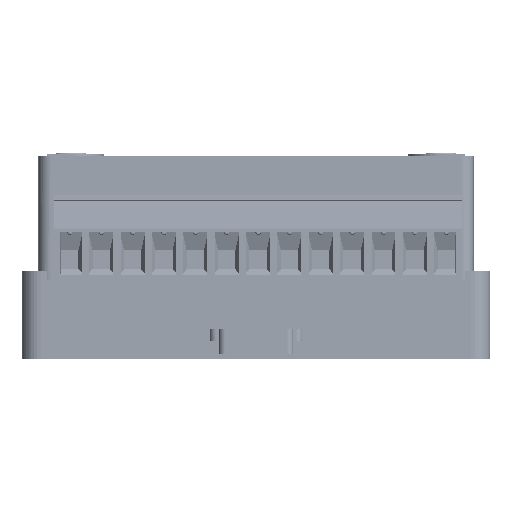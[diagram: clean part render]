
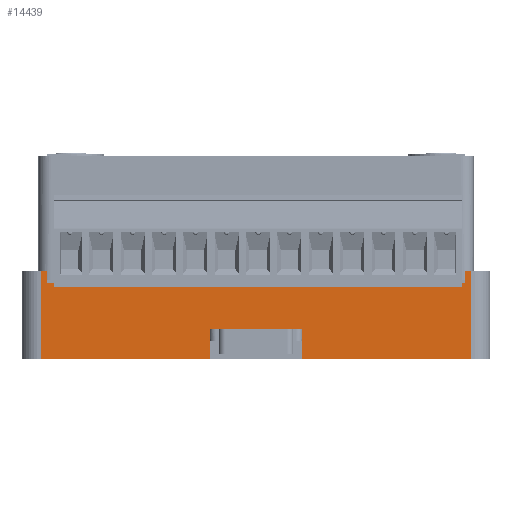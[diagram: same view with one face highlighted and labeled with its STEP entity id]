
A CAD part, front view. The second image highlights one B-rep face of the part: STEP entity #14439.
In plain terms, the highlighted planar face has unit normal (0, -1, 0).
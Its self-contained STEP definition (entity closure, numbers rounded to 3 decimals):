
#14439=ADVANCED_FACE('',(#84529),#84531,.F.);
#84529=FACE_BOUND('',#84530,.T.);
#84530=EDGE_LOOP('',(#136191,#136192,#136193,#136194,#136195,#136196,#136197,#136198,
#136199,#136200,#136201,#136202,#136203,#136204,#136205,#136206));
#84531=PLANE('',#84532);
#84532=AXIS2_PLACEMENT_3D('',#84533,#84534,#84535);
#84533=CARTESIAN_POINT('',(-37.9,-51.95,14.4));
#84534=DIRECTION('',(0.,1.,0.));
#84535=DIRECTION('',(0.,0.,1.));
#136191=ORIENTED_EDGE('',*,*,#189554,.F.);
#136192=ORIENTED_EDGE('',*,*,#189555,.F.);
#136193=ORIENTED_EDGE('',*,*,#189556,.T.);
#136194=ORIENTED_EDGE('',*,*,#189557,.T.);
#136195=ORIENTED_EDGE('',*,*,#189558,.T.);
#136196=ORIENTED_EDGE('',*,*,#188957,.F.);
#136197=ORIENTED_EDGE('',*,*,#188989,.T.);
#136198=ORIENTED_EDGE('',*,*,#188987,.F.);
#136199=ORIENTED_EDGE('',*,*,#188986,.T.);
#136200=ORIENTED_EDGE('',*,*,#188973,.F.);
#136201=ORIENTED_EDGE('',*,*,#189559,.T.);
#136202=ORIENTED_EDGE('',*,*,#189560,.T.);
#136203=ORIENTED_EDGE('',*,*,#189561,.F.);
#136204=ORIENTED_EDGE('',*,*,#189562,.F.);
#136205=ORIENTED_EDGE('',*,*,#189563,.F.);
#136206=ORIENTED_EDGE('',*,*,#188993,.F.);
#188957=EDGE_CURVE('',#213278,#213280,#213281,.T.);
#188973=EDGE_CURVE('',#213307,#213299,#213309,.T.);
#188986=EDGE_CURVE('',#213327,#213299,#213329,.T.);
#188987=EDGE_CURVE('',#213327,#213330,#213331,.T.);
#188989=EDGE_CURVE('',#213278,#213330,#213333,.T.);
#188993=EDGE_CURVE('',#213337,#213339,#213340,.T.);
#189554=EDGE_CURVE('',#214250,#213337,#214251,.T.);
#189555=EDGE_CURVE('',#214252,#214250,#214253,.T.);
#189556=EDGE_CURVE('',#214252,#214254,#214255,.T.);
#189557=EDGE_CURVE('',#214254,#214256,#214257,.T.);
#189558=EDGE_CURVE('',#214256,#213280,#214258,.T.);
#189559=EDGE_CURVE('',#213307,#214259,#214260,.T.);
#189560=EDGE_CURVE('',#214259,#214261,#214262,.T.);
#189561=EDGE_CURVE('',#214263,#214261,#214264,.T.);
#189562=EDGE_CURVE('',#214265,#214263,#214266,.T.);
#189563=EDGE_CURVE('',#213339,#214265,#214267,.T.);
#213278=VERTEX_POINT('',#267380);
#213280=VERTEX_POINT('',#267384);
#213281=LINE('',#267385,#267386);
#213299=VERTEX_POINT('',#267427);
#213307=VERTEX_POINT('',#267444);
#213309=LINE('',#267449,#267450);
#213327=VERTEX_POINT('',#267491);
#213329=LINE('',#267495,#267496);
#213330=VERTEX_POINT('',#267498);
#213331=LINE('',#267499,#267500);
#213333=LINE('',#267505,#267506);
#213337=VERTEX_POINT('',#267515);
#213339=VERTEX_POINT('',#267519);
#213340=LINE('',#267520,#267521);
#214250=VERTEX_POINT('',#273487);
#214251=LINE('',#273488,#273489);
#214252=VERTEX_POINT('',#273491);
#214253=LINE('',#273492,#273493);
#214254=VERTEX_POINT('',#273495);
#214255=LINE('',#273496,#273497);
#214256=VERTEX_POINT('',#273499);
#214257=LINE('',#273500,#273501);
#214258=LINE('',#273503,#273504);
#214259=VERTEX_POINT('',#273506);
#214260=LINE('',#273507,#273508);
#214261=VERTEX_POINT('',#273510);
#214262=LINE('',#273511,#273512);
#214263=VERTEX_POINT('',#273514);
#214264=LINE('',#273515,#273516);
#214265=VERTEX_POINT('',#273518);
#214266=LINE('',#273519,#273520);
#214267=LINE('',#273522,#273523);
#267380=CARTESIAN_POINT('',(33.85,-51.95,14.4));
#267384=CARTESIAN_POINT('',(34.9,-51.95,14.4));
#267385=CARTESIAN_POINT('',(33.85,-51.95,14.4));
#267386=VECTOR('',#267387,1.);
#267387=DIRECTION('',(1.,0.,0.));
#267427=CARTESIAN_POINT('',(-33.85,-51.95,14.4));
#267444=CARTESIAN_POINT('',(-34.9,-51.95,14.4));
#267449=CARTESIAN_POINT('',(-34.9,-51.95,14.4));
#267450=VECTOR('',#267451,1.);
#267451=DIRECTION('',(1.,0.,0.));
#267491=CARTESIAN_POINT('',(-33.85,-51.95,12.4));
#267495=CARTESIAN_POINT('',(-33.85,-51.95,12.4));
#267496=VECTOR('',#267497,1.);
#267497=DIRECTION('',(0.,0.,1.));
#267498=CARTESIAN_POINT('',(33.85,-51.95,12.4));
#267499=CARTESIAN_POINT('',(-33.85,-51.95,12.4));
#267500=VECTOR('',#267501,1.);
#267501=DIRECTION('',(1.,0.,0.));
#267505=CARTESIAN_POINT('',(33.85,-51.95,14.4));
#267506=VECTOR('',#267507,1.);
#267507=DIRECTION('',(0.,0.,-1.));
#267515=CARTESIAN_POINT('',(4.,-51.95,5.));
#267519=CARTESIAN_POINT('',(-4.,-51.95,5.));
#267520=CARTESIAN_POINT('',(4.,-51.95,5.));
#267521=VECTOR('',#267522,1.);
#267522=DIRECTION('',(-1.,0.,0.));
#273487=CARTESIAN_POINT('',(6.936,-51.95,5.));
#273488=CARTESIAN_POINT('',(6.936,-51.95,5.));
#273489=VECTOR('',#273490,1.);
#273490=DIRECTION('',(-1.,0.,0.));
#273491=CARTESIAN_POINT('',(7.5,-51.95,5.));
#273492=CARTESIAN_POINT('',(7.5,-51.95,5.));
#273493=VECTOR('',#273494,1.);
#273494=DIRECTION('',(-1.,0.,0.));
#273495=CARTESIAN_POINT('',(7.5,-51.95,0.));
#273496=CARTESIAN_POINT('',(7.5,-51.95,5.));
#273497=VECTOR('',#273498,1.);
#273498=DIRECTION('',(0.,0.,-1.));
#273499=CARTESIAN_POINT('',(34.9,-51.95,0.));
#273500=CARTESIAN_POINT('',(7.5,-51.95,0.));
#273501=VECTOR('',#273502,1.);
#273502=DIRECTION('',(1.,0.,0.));
#273503=CARTESIAN_POINT('',(34.9,-51.95,0.));
#273504=VECTOR('',#273505,1.);
#273505=DIRECTION('',(0.,0.,1.));
#273506=CARTESIAN_POINT('',(-34.9,-51.95,0.));
#273507=CARTESIAN_POINT('',(-34.9,-51.95,14.4));
#273508=VECTOR('',#273509,1.);
#273509=DIRECTION('',(0.,0.,-1.));
#273510=CARTESIAN_POINT('',(-7.5,-51.95,0.));
#273511=CARTESIAN_POINT('',(-34.9,-51.95,0.));
#273512=VECTOR('',#273513,1.);
#273513=DIRECTION('',(1.,0.,0.));
#273514=CARTESIAN_POINT('',(-7.5,-51.95,5.));
#273515=CARTESIAN_POINT('',(-7.5,-51.95,5.));
#273516=VECTOR('',#273517,1.);
#273517=DIRECTION('',(0.,0.,-1.));
#273518=CARTESIAN_POINT('',(-6.936,-51.95,5.));
#273519=CARTESIAN_POINT('',(-6.936,-51.95,5.));
#273520=VECTOR('',#273521,1.);
#273521=DIRECTION('',(-1.,0.,0.));
#273522=CARTESIAN_POINT('',(-4.,-51.95,5.));
#273523=VECTOR('',#273524,1.);
#273524=DIRECTION('',(-1.,0.,0.));
